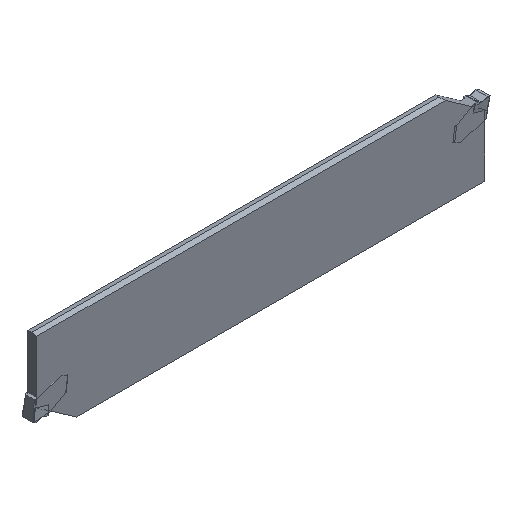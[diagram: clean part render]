
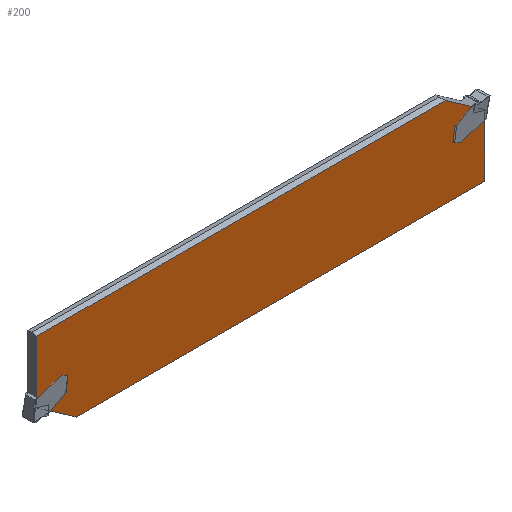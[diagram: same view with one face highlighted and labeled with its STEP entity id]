
A CAD part, isometric view. The second image highlights one B-rep face of the part: STEP entity #200.
In plain terms, the highlighted planar face has unit normal (0, -1, 0).
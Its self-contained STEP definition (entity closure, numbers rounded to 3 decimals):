
#140=PLANE('',#1413);
#200=ADVANCED_FACE('',(#278),#140,.F.);
#278=FACE_OUTER_BOUND('',#338,.T.);
#338=EDGE_LOOP('',(#709,#710,#711,#712,#713,#714));
#709=ORIENTED_EDGE('',*,*,#1035,.F.);
#710=ORIENTED_EDGE('',*,*,#1036,.T.);
#711=ORIENTED_EDGE('',*,*,#1037,.F.);
#712=ORIENTED_EDGE('',*,*,#1038,.F.);
#713=ORIENTED_EDGE('',*,*,#1039,.T.);
#714=ORIENTED_EDGE('',*,*,#1040,.F.);
#865=VERTEX_POINT('',#2097);
#866=VERTEX_POINT('',#2098);
#867=VERTEX_POINT('',#2100);
#868=VERTEX_POINT('',#2102);
#869=VERTEX_POINT('',#2104);
#870=VERTEX_POINT('',#2106);
#1035=EDGE_CURVE('',#865,#866,#1165,.T.);
#1036=EDGE_CURVE('',#865,#867,#1166,.T.);
#1037=EDGE_CURVE('',#868,#867,#1167,.T.);
#1038=EDGE_CURVE('',#869,#868,#1168,.T.);
#1039=EDGE_CURVE('',#869,#870,#1169,.T.);
#1040=EDGE_CURVE('',#866,#870,#1170,.T.);
#1165=LINE('',#2096,#1295);
#1166=LINE('',#2099,#1296);
#1167=LINE('',#2101,#1297);
#1168=LINE('',#2103,#1298);
#1169=LINE('',#2105,#1299);
#1170=LINE('',#2107,#1300);
#1295=VECTOR('',#1734,1.);
#1296=VECTOR('',#1735,1.);
#1297=VECTOR('',#1736,1.);
#1298=VECTOR('',#1737,1.);
#1299=VECTOR('',#1738,1.);
#1300=VECTOR('',#1739,1.);
#1413=AXIS2_PLACEMENT_3D('',#2108,#1740,#1741);
#1734=DIRECTION('',(-1.,0.,0.));
#1735=DIRECTION('',(0.,0.,1.));
#1736=DIRECTION('',(0.819,0.,-0.574));
#1737=DIRECTION('',(1.,0.,0.));
#1738=DIRECTION('',(0.,0.,-1.));
#1739=DIRECTION('',(-0.819,0.,0.574));
#1740=DIRECTION('',(0.,1.,0.));
#1741=DIRECTION('',(0.,0.,-1.));
#2096=CARTESIAN_POINT('',(-1.5,-1.6,-24.241));
#2097=CARTESIAN_POINT('',(-1.5,-1.6,-24.241));
#2098=CARTESIAN_POINT('',(-138.342,-1.6,-24.241));
#2099=CARTESIAN_POINT('',(-1.5,-1.6,-24.67));
#2100=CARTESIAN_POINT('',(-1.5,-1.6,-3.422));
#2101=CARTESIAN_POINT('',(-6.03,-1.6,-0.25));
#2102=CARTESIAN_POINT('',(-14.658,-1.6,5.791));
#2103=CARTESIAN_POINT('',(-1.5,-1.6,5.791));
#2104=CARTESIAN_POINT('',(-151.5,-1.6,5.791));
#2105=CARTESIAN_POINT('',(-151.5,-1.6,6.22));
#2106=CARTESIAN_POINT('',(-151.5,-1.6,-15.028));
#2107=CARTESIAN_POINT('',(-146.97,-1.6,-18.2));
#2108=CARTESIAN_POINT('',(-1.5,-1.6,6.22));
